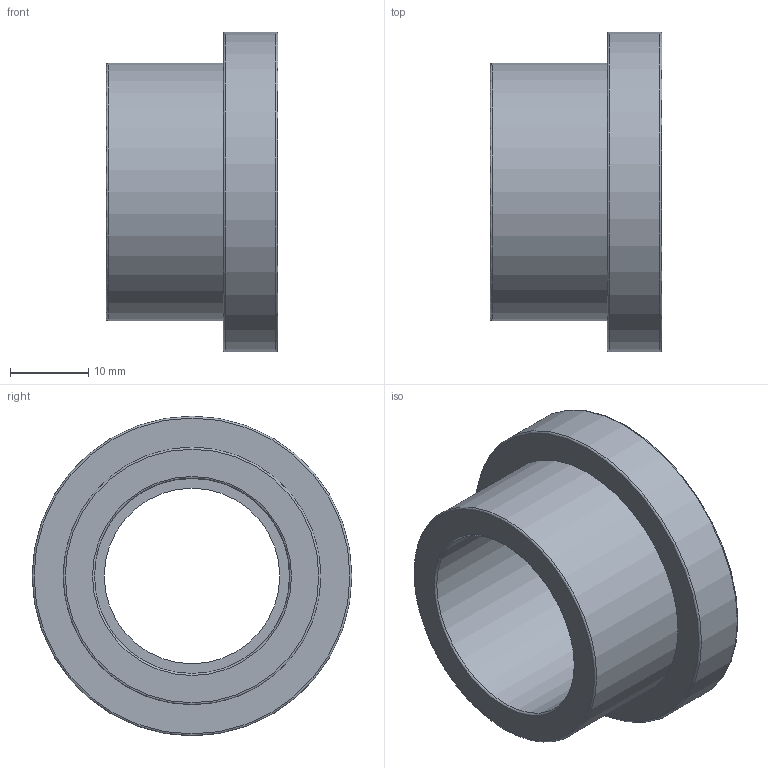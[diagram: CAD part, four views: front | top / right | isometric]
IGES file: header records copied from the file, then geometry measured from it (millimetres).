
Global section: file name: 055100025.ipt; native system: Autodesk Inventor 2015; preprocessor: unknown; author: KIM; date: 20180927.115417; units: millimetre
Bounding box: 22 x 41 x 41 mm (x, y, z)
Volume: 11545 mm3; surface area: 5951.5 mm2
Topology: 1 solids, 1 shells, 13 faces, 36 edges, 27 vertices
Faces by surface type: revolution 7, plane 4, cylinder 2
Full cylindrical faces by diameter (mm): 33 x1, 41 x1
